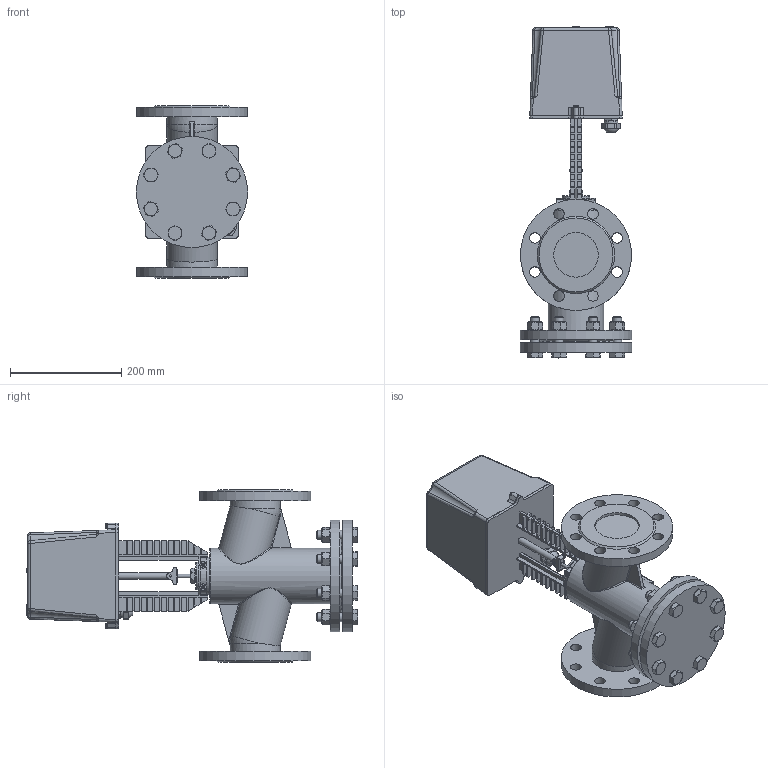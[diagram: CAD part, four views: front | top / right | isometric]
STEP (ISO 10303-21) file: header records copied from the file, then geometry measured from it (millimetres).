
FILE_DESCRIPTION(('STEP AP242'), '1');
FILE_NAME('VSR1-13V-PED-F Êëàïàí çàïîðíî-ðåãóëèðóþùèé DN.ru Äó80 Ðó16', '', ('UNSPECIFIED'), ('UNSPECIFIED'), 'C3D Converter', 'C3D Toolkit', '');
FILE_SCHEMA(('AP242_MANAGED_MODEL_BASED_3D_ENGINEERING_MIM_LF { 1 0 10303 442 1 1 4 }'));
Length unit declared in the file: millimetre
Products named in the file (1): VSR1-13V-PED-F
Bounding box: 200 x 597 x 310 mm (x, y, z)
Volume: 9571923.6 mm3; surface area: 704511.8 mm2
Topology: 1 solids, 1 shells, 1475 faces, 3799 edges, 2375 vertices
Faces by surface type: plane 787, cylinder 263, extrusion 161, cone 104, bspline 82, torus 48, sphere 30
Full cylindrical faces by diameter (mm): 4 x2, 6 x4, 7 x2, 11.5 x3, 12 x2, 13.835 x8, 16 x9, 18 x8, 19 x24, 24 x8, 25 x1, 50 x1, 70 x1, 80 x2, 90 x2, 100 x1, 200 x4
Entity records: 66613 total; most frequent: CARTESIAN_POINT 24207, ORIENTED_EDGE 7192, DIRECTION 6231, EDGE_CURVE 3596, VERTEX_POINT 2368, VECTOR 2249, LINE 2088, AXIS2_PLACEMENT_3D 1991
